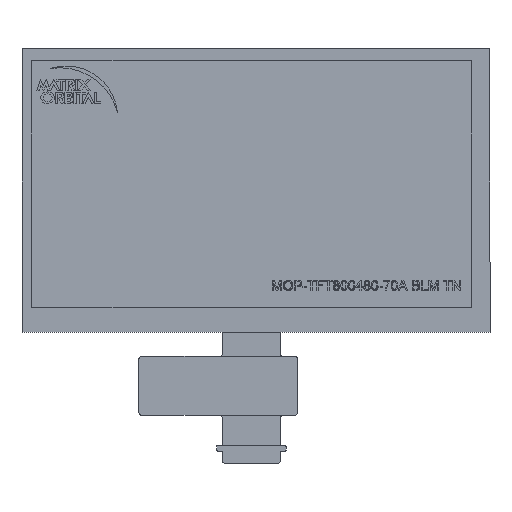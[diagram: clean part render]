
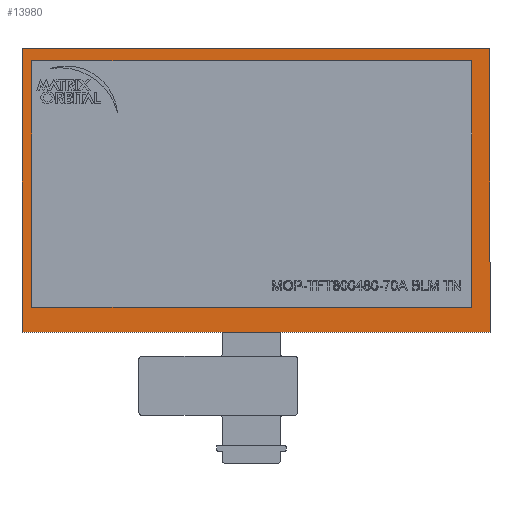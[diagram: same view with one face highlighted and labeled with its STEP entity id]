
A CAD part, top view. The second image highlights one B-rep face of the part: STEP entity #13980.
In plain terms, the highlighted planar face has unit normal (0, 0, 1).
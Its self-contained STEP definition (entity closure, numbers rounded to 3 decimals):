
#547 = ORIENTED_EDGE ( 'NONE', *, *, #19671, .F. ) ;
#758 = AXIS2_PLACEMENT_3D ( 'NONE', #18024, #5284, #12896 ) ;
#764 = EDGE_CURVE ( 'NONE', #22374, #5181, #13795, .T. ) ;
#812 = CARTESIAN_POINT ( 'NONE',  ( -81.01, -52.26, 2.825 ) ) ;
#1533 = DIRECTION ( 'NONE',  ( 0., -1., 0. ) ) ;
#1606 = VECTOR ( 'NONE', #1533, 1000. ) ;
#2258 = ORIENTED_EDGE ( 'NONE', *, *, #764, .T. ) ;
#2384 = CARTESIAN_POINT ( 'NONE',  ( -81.01, 47.74, 2.825 ) ) ;
#2984 = CARTESIAN_POINT ( 'NONE',  ( -77.54, -43.46, 2.825 ) ) ;
#5082 = DIRECTION ( 'NONE',  ( 0., 1., 0. ) ) ;
#5181 = VERTEX_POINT ( 'NONE', #19510 ) ;
#5222 = ORIENTED_EDGE ( 'NONE', *, *, #20507, .F. ) ;
#5284 = DIRECTION ( 'NONE',  ( 0., 0., 1. ) ) ;
#6171 = VECTOR ( 'NONE', #10346, 1000. ) ;
#6570 = EDGE_LOOP ( 'NONE', ( #17858, #547, #5222, #10588 ) ) ;
#6613 = CARTESIAN_POINT ( 'NONE',  ( -77.54, 43.46, 2.825 ) ) ;
#6984 = CARTESIAN_POINT ( 'NONE',  ( -81.01, 47.74, 2.825 ) ) ;
#7249 = VERTEX_POINT ( 'NONE', #2384 ) ;
#7407 = EDGE_CURVE ( 'NONE', #22994, #10017, #13691, .T. ) ;
#7443 = ORIENTED_EDGE ( 'NONE', *, *, #18878, .T. ) ;
#7652 = CARTESIAN_POINT ( 'NONE',  ( 77.54, 43.46, 2.825 ) ) ;
#8157 = DIRECTION ( 'NONE',  ( 0., -1., 0. ) ) ;
#8180 = VECTOR ( 'NONE', #5082, 1000. ) ;
#8274 = LINE ( 'NONE', #21092, #15881 ) ;
#8584 = ORIENTED_EDGE ( 'NONE', *, *, #18565, .T. ) ;
#9089 = FACE_OUTER_BOUND ( 'NONE', #14104, .T. ) ;
#9729 = CARTESIAN_POINT ( 'NONE',  ( 83.99, -52.26, 2.825 ) ) ;
#10017 = VERTEX_POINT ( 'NONE', #12030 ) ;
#10080 = DIRECTION ( 'NONE',  ( -1., 0., 0. ) ) ;
#10138 = DIRECTION ( 'NONE',  ( 1., 0., 0. ) ) ;
#10342 = LINE ( 'NONE', #12349, #8180 ) ;
#10346 = DIRECTION ( 'NONE',  ( -1., 0., 0. ) ) ;
#10531 = LINE ( 'NONE', #19554, #19868 ) ;
#10588 = ORIENTED_EDGE ( 'NONE', *, *, #7407, .F. ) ;
#10610 = LINE ( 'NONE', #19526, #1606 ) ;
#12030 = CARTESIAN_POINT ( 'NONE',  ( 77.54, -43.46, 2.825 ) ) ;
#12324 = VECTOR ( 'NONE', #10080, 1000. ) ;
#12349 = CARTESIAN_POINT ( 'NONE',  ( 77.54, 43.46, 2.825 ) ) ;
#12409 = ORIENTED_EDGE ( 'NONE', *, *, #18279, .T. ) ;
#12432 = PLANE ( 'NONE',  #758 ) ;
#12896 = DIRECTION ( 'NONE',  ( 1., 0., 0. ) ) ;
#13010 = VECTOR ( 'NONE', #10138, 1000. ) ;
#13691 = LINE ( 'NONE', #2984, #13010 ) ;
#13795 = LINE ( 'NONE', #21031, #23184 ) ;
#13980 = ADVANCED_FACE ( 'NONE', ( #23246, #9089 ), #12432, .T. ) ;
#14104 = EDGE_LOOP ( 'NONE', ( #7443, #8584, #2258, #12409 ) ) ;
#14323 = CARTESIAN_POINT ( 'NONE',  ( -77.54, 43.46, 2.825 ) ) ;
#15527 = LINE ( 'NONE', #6613, #12324 ) ;
#15776 = EDGE_CURVE ( 'NONE', #20895, #22994, #8274, .T. ) ;
#15881 = VECTOR ( 'NONE', #8157, 1000. ) ;
#17534 = CARTESIAN_POINT ( 'NONE',  ( -77.54, -43.46, 2.825 ) ) ;
#17775 = VERTEX_POINT ( 'NONE', #812 ) ;
#17858 = ORIENTED_EDGE ( 'NONE', *, *, #15776, .F. ) ;
#17891 = DIRECTION ( 'NONE',  ( 1., 0., 0. ) ) ;
#18024 = CARTESIAN_POINT ( 'NONE',  ( 0., 0., 2.825 ) ) ;
#18279 = EDGE_CURVE ( 'NONE', #5181, #7249, #19602, .T. ) ;
#18565 = EDGE_CURVE ( 'NONE', #17775, #22374, #10531, .T. ) ;
#18878 = EDGE_CURVE ( 'NONE', #7249, #17775, #10610, .T. ) ;
#19274 = DIRECTION ( 'NONE',  ( 0., 1., 0. ) ) ;
#19510 = CARTESIAN_POINT ( 'NONE',  ( 83.99, 47.74, 2.825 ) ) ;
#19526 = CARTESIAN_POINT ( 'NONE',  ( -81.01, 47.74, 2.825 ) ) ;
#19554 = CARTESIAN_POINT ( 'NONE',  ( -81.01, -52.26, 2.825 ) ) ;
#19602 = LINE ( 'NONE', #6984, #6171 ) ;
#19671 = EDGE_CURVE ( 'NONE', #21664, #20895, #15527, .T. ) ;
#19868 = VECTOR ( 'NONE', #17891, 1000. ) ;
#20507 = EDGE_CURVE ( 'NONE', #10017, #21664, #10342, .T. ) ;
#20895 = VERTEX_POINT ( 'NONE', #14323 ) ;
#21031 = CARTESIAN_POINT ( 'NONE',  ( 83.99, 47.74, 2.825 ) ) ;
#21092 = CARTESIAN_POINT ( 'NONE',  ( -77.54, 43.46, 2.825 ) ) ;
#21664 = VERTEX_POINT ( 'NONE', #7652 ) ;
#22374 = VERTEX_POINT ( 'NONE', #9729 ) ;
#22994 = VERTEX_POINT ( 'NONE', #17534 ) ;
#23184 = VECTOR ( 'NONE', #19274, 1000. ) ;
#23246 = FACE_BOUND ( 'NONE', #6570, .T. ) ;
